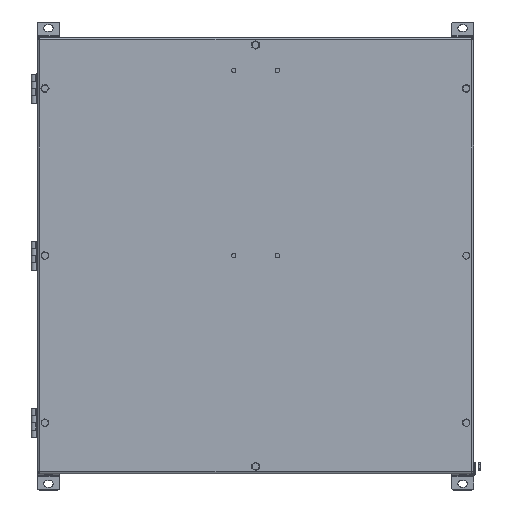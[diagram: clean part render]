
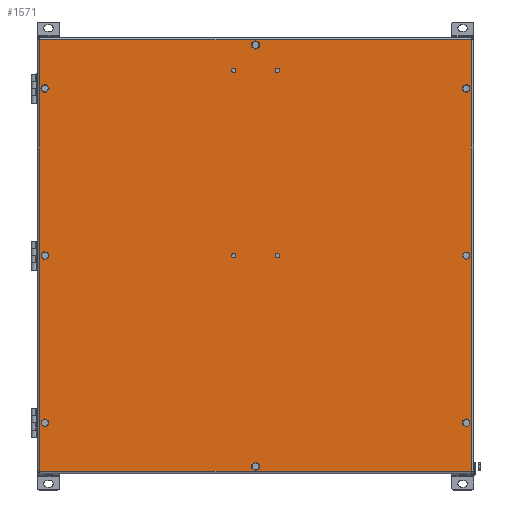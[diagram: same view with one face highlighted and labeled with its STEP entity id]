
A CAD part, top view. The second image highlights one B-rep face of the part: STEP entity #1571.
In plain terms, the highlighted planar face has unit normal (0, 0, 1).
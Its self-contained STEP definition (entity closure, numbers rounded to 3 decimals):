
#1001=CARTESIAN_POINT('',(297.,-297.0,250.5));
#1002=VERTEX_POINT('',#1001);
#1068=CARTESIAN_POINT('',(297.,297.,250.5));
#1069=VERTEX_POINT('',#1068);
#1175=CARTESIAN_POINT('',(-297.,-297.0,250.5));
#1176=VERTEX_POINT('',#1175);
#1191=CARTESIAN_POINT('',(297.,-297.0,250.5));
#1192=DIRECTION('',(-1.0,0.0,0.0));
#1193=VECTOR('',#1192,594.);
#1194=LINE('',#1191,#1193);
#1195=EDGE_CURVE('',#1002,#1176,#1194,.T.);
#1247=CARTESIAN_POINT('',(-297.0,297.,250.5));
#1248=VERTEX_POINT('',#1247);
#1269=CARTESIAN_POINT('',(-297.,-297.0,250.5));
#1270=DIRECTION('',(0.0,1.0,0.0));
#1271=VECTOR('',#1270,594.0);
#1272=LINE('',#1269,#1271);
#1273=EDGE_CURVE('',#1176,#1248,#1272,.T.);
#1297=CARTESIAN_POINT('',(-297.0,297.,250.5));
#1298=DIRECTION('',(1.0,0.0,0.0));
#1299=VECTOR('',#1298,594.0);
#1300=LINE('',#1297,#1299);
#1301=EDGE_CURVE('',#1248,#1069,#1300,.T.);
#1319=CARTESIAN_POINT('',(297.,297.0,250.5));
#1320=DIRECTION('',(0.0,-1.0,0.0));
#1321=VECTOR('',#1320,594.0);
#1322=LINE('',#1319,#1321);
#1323=EDGE_CURVE('',#1069,#1002,#1322,.T.);
#1428=CARTESIAN_POINT('',(0.,0.,250.5));
#1429=DIRECTION('',(0.0,0.0,1.0));
#1430=DIRECTION('',(1.0,0.0,0.0));
#1431=AXIS2_PLACEMENT_3D('',#1428,#1429,#1430);
#1432=PLANE('',#1431);
#1433=ORIENTED_EDGE('',*,*,#1195,.F.);
#1434=ORIENTED_EDGE('',*,*,#1323,.F.);
#1435=ORIENTED_EDGE('',*,*,#1301,.F.);
#1436=ORIENTED_EDGE('',*,*,#1273,.F.);
#1437=EDGE_LOOP('',(#1433,#1434,#1435,#1436));
#1438=FACE_OUTER_BOUND('',#1437,.T.);
#1439=CARTESIAN_POINT('',(-286.25,230.,250.5));
#1440=VERTEX_POINT('',#1439);
#1441=CARTESIAN_POINT('',(-290.,230.,250.5));
#1442=DIRECTION('',(0.0,0.0,-1.0));
#1443=DIRECTION('',(-1.0,0.0,0.0));
#1444=AXIS2_PLACEMENT_3D('',#1441,#1442,#1443);
#1445=CIRCLE('',#1444,3.75);
#1446=EDGE_CURVE('',#1440,#1440,#1445,.T.);
#1447=ORIENTED_EDGE('',*,*,#1446,.T.);
#1448=EDGE_LOOP('',(#1447));
#1449=FACE_BOUND('',#1448,.T.);
#1450=CARTESIAN_POINT('',(293.75,230.0,250.5));
#1451=VERTEX_POINT('',#1450);
#1452=CARTESIAN_POINT('',(290.,230.0,250.5));
#1453=DIRECTION('',(0.0,0.0,-1.0));
#1454=DIRECTION('',(-1.0,0.0,0.0));
#1455=AXIS2_PLACEMENT_3D('',#1452,#1453,#1454);
#1456=CIRCLE('',#1455,3.75);
#1457=EDGE_CURVE('',#1451,#1451,#1456,.T.);
#1458=ORIENTED_EDGE('',*,*,#1457,.T.);
#1459=EDGE_LOOP('',(#1458));
#1460=FACE_BOUND('',#1459,.T.);
#1461=CARTESIAN_POINT('',(-286.25,0.,250.5));
#1462=VERTEX_POINT('',#1461);
#1463=CARTESIAN_POINT('',(-290.,0.,250.5));
#1464=DIRECTION('',(0.0,0.0,-1.0));
#1465=DIRECTION('',(-1.0,0.0,0.0));
#1466=AXIS2_PLACEMENT_3D('',#1463,#1464,#1465);
#1467=CIRCLE('',#1466,3.75);
#1468=EDGE_CURVE('',#1462,#1462,#1467,.T.);
#1469=ORIENTED_EDGE('',*,*,#1468,.T.);
#1470=EDGE_LOOP('',(#1469));
#1471=FACE_BOUND('',#1470,.T.);
#1472=CARTESIAN_POINT('',(293.75,0.,250.5));
#1473=VERTEX_POINT('',#1472);
#1474=CARTESIAN_POINT('',(290.,0.,250.5));
#1475=DIRECTION('',(0.0,0.0,-1.0));
#1476=DIRECTION('',(-1.0,0.0,0.0));
#1477=AXIS2_PLACEMENT_3D('',#1474,#1475,#1476);
#1478=CIRCLE('',#1477,3.75);
#1479=EDGE_CURVE('',#1473,#1473,#1478,.T.);
#1480=ORIENTED_EDGE('',*,*,#1479,.T.);
#1481=EDGE_LOOP('',(#1480));
#1482=FACE_BOUND('',#1481,.T.);
#1483=CARTESIAN_POINT('',(-286.25,-230.,250.5));
#1484=VERTEX_POINT('',#1483);
#1485=CARTESIAN_POINT('',(-290.,-230.,250.5));
#1486=DIRECTION('',(0.0,0.0,-1.0));
#1487=DIRECTION('',(-1.0,0.0,0.0));
#1488=AXIS2_PLACEMENT_3D('',#1485,#1486,#1487);
#1489=CIRCLE('',#1488,3.75);
#1490=EDGE_CURVE('',#1484,#1484,#1489,.T.);
#1491=ORIENTED_EDGE('',*,*,#1490,.T.);
#1492=EDGE_LOOP('',(#1491));
#1493=FACE_BOUND('',#1492,.T.);
#1494=CARTESIAN_POINT('',(293.75,-230.0,250.5));
#1495=VERTEX_POINT('',#1494);
#1496=CARTESIAN_POINT('',(290.,-230.0,250.5));
#1497=DIRECTION('',(0.0,0.0,-1.0));
#1498=DIRECTION('',(-1.0,0.0,0.0));
#1499=AXIS2_PLACEMENT_3D('',#1496,#1497,#1498);
#1500=CIRCLE('',#1499,3.75);
#1501=EDGE_CURVE('',#1495,#1495,#1500,.T.);
#1502=ORIENTED_EDGE('',*,*,#1501,.T.);
#1503=EDGE_LOOP('',(#1502));
#1504=FACE_BOUND('',#1503,.T.);
#1505=CARTESIAN_POINT('',(3.75,290.,250.5));
#1506=VERTEX_POINT('',#1505);
#1507=CARTESIAN_POINT('',(0.,290.,250.5));
#1508=DIRECTION('',(0.0,0.0,-1.0));
#1509=DIRECTION('',(-1.0,0.0,0.0));
#1510=AXIS2_PLACEMENT_3D('',#1507,#1508,#1509);
#1511=CIRCLE('',#1510,3.75);
#1512=EDGE_CURVE('',#1506,#1506,#1511,.T.);
#1513=ORIENTED_EDGE('',*,*,#1512,.T.);
#1514=EDGE_LOOP('',(#1513));
#1515=FACE_BOUND('',#1514,.T.);
#1516=CARTESIAN_POINT('',(3.75,-290.,250.5));
#1517=VERTEX_POINT('',#1516);
#1518=CARTESIAN_POINT('',(0.,-290.,250.5));
#1519=DIRECTION('',(0.0,0.0,-1.0));
#1520=DIRECTION('',(-1.0,0.0,0.0));
#1521=AXIS2_PLACEMENT_3D('',#1518,#1519,#1520);
#1522=CIRCLE('',#1521,3.75);
#1523=EDGE_CURVE('',#1517,#1517,#1522,.T.);
#1524=ORIENTED_EDGE('',*,*,#1523,.T.);
#1525=EDGE_LOOP('',(#1524));
#1526=FACE_BOUND('',#1525,.T.);
#1527=CARTESIAN_POINT('',(33.05,255.,250.5));
#1528=VERTEX_POINT('',#1527);
#1529=CARTESIAN_POINT('',(30.,255.,250.5));
#1530=DIRECTION('',(0.0,0.0,-1.0));
#1531=DIRECTION('',(-1.0,0.0,0.0));
#1532=AXIS2_PLACEMENT_3D('',#1529,#1530,#1531);
#1533=CIRCLE('',#1532,3.05);
#1534=EDGE_CURVE('',#1528,#1528,#1533,.T.);
#1535=ORIENTED_EDGE('',*,*,#1534,.T.);
#1536=EDGE_LOOP('',(#1535));
#1537=FACE_BOUND('',#1536,.T.);
#1538=CARTESIAN_POINT('',(-26.95,255.,250.5));
#1539=VERTEX_POINT('',#1538);
#1540=CARTESIAN_POINT('',(-30.,255.,250.5));
#1541=DIRECTION('',(0.0,0.0,-1.0));
#1542=DIRECTION('',(-1.0,0.0,0.0));
#1543=AXIS2_PLACEMENT_3D('',#1540,#1541,#1542);
#1544=CIRCLE('',#1543,3.05);
#1545=EDGE_CURVE('',#1539,#1539,#1544,.T.);
#1546=ORIENTED_EDGE('',*,*,#1545,.T.);
#1547=EDGE_LOOP('',(#1546));
#1548=FACE_BOUND('',#1547,.T.);
#1549=CARTESIAN_POINT('',(-26.95,0.,250.5));
#1550=VERTEX_POINT('',#1549);
#1551=CARTESIAN_POINT('',(-30.,0.,250.5));
#1552=DIRECTION('',(0.0,0.0,-1.0));
#1553=DIRECTION('',(-1.0,0.0,0.0));
#1554=AXIS2_PLACEMENT_3D('',#1551,#1552,#1553);
#1555=CIRCLE('',#1554,3.05);
#1556=EDGE_CURVE('',#1550,#1550,#1555,.T.);
#1557=ORIENTED_EDGE('',*,*,#1556,.T.);
#1558=EDGE_LOOP('',(#1557));
#1559=FACE_BOUND('',#1558,.T.);
#1560=CARTESIAN_POINT('',(33.05,0.,250.5));
#1561=VERTEX_POINT('',#1560);
#1562=CARTESIAN_POINT('',(30.,0.,250.5));
#1563=DIRECTION('',(0.0,0.0,-1.0));
#1564=DIRECTION('',(-1.0,0.0,0.0));
#1565=AXIS2_PLACEMENT_3D('',#1562,#1563,#1564);
#1566=CIRCLE('',#1565,3.05);
#1567=EDGE_CURVE('',#1561,#1561,#1566,.T.);
#1568=ORIENTED_EDGE('',*,*,#1567,.T.);
#1569=EDGE_LOOP('',(#1568));
#1570=FACE_BOUND('',#1569,.T.);
#1571=ADVANCED_FACE('',(#1438,#1449,#1460,#1471,#1482,#1493,#1504,#1515,#1526,#1537,#1548,#1559,#1570),#1432,.T.);
